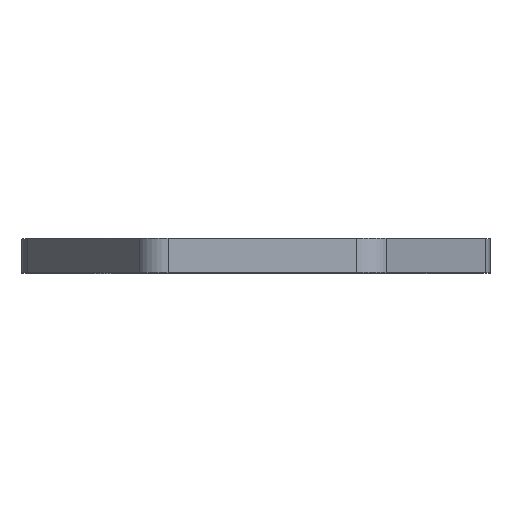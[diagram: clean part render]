
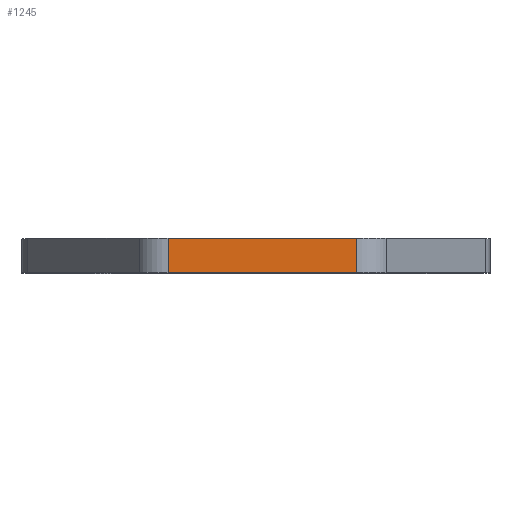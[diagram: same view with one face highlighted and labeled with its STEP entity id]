
A CAD part, top view. The second image highlights one B-rep face of the part: STEP entity #1245.
In plain terms, the highlighted planar face has unit normal (0, 0, 1).
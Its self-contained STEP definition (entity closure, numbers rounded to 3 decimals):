
#38 = ORIENTED_EDGE ( 'NONE', *, *, #1426, .T. ) ;
#97 = VECTOR ( 'NONE', #1094, 1000. ) ;
#167 = ORIENTED_EDGE ( 'NONE', *, *, #1560, .F. ) ;
#202 = DIRECTION ( 'NONE',  ( 0., -1., 0. ) ) ;
#304 = LINE ( 'NONE', #467, #739 ) ;
#385 = EDGE_CURVE ( 'NONE', #1393, #505, #473, .T. ) ;
#467 = CARTESIAN_POINT ( 'NONE',  ( -15.574, -1.5, 62.876 ) ) ;
#473 = LINE ( 'NONE', #727, #97 ) ;
#503 = VECTOR ( 'NONE', #904, 1000. ) ;
#505 = VERTEX_POINT ( 'NONE', #1030 ) ;
#521 = DIRECTION ( 'NONE',  ( 0., 0., -1. ) ) ;
#555 = DIRECTION ( 'NONE',  ( 1., 0., 0. ) ) ;
#615 = PLANE ( 'NONE',  #682 ) ;
#641 = FACE_OUTER_BOUND ( 'NONE', #745, .T. ) ;
#682 = AXIS2_PLACEMENT_3D ( 'NONE', #884, #521, #1363 ) ;
#702 = ORIENTED_EDGE ( 'NONE', *, *, #1466, .F. ) ;
#727 = CARTESIAN_POINT ( 'NONE',  ( -15.574, 4.5, 62.876 ) ) ;
#739 = VECTOR ( 'NONE', #555, 1000. ) ;
#745 = EDGE_LOOP ( 'NONE', ( #38, #167, #702, #1364 ) ) ;
#884 = CARTESIAN_POINT ( 'NONE',  ( -15.574, 4.5, 62.876 ) ) ;
#904 = DIRECTION ( 'NONE',  ( 1., 0., 0. ) ) ;
#1030 = CARTESIAN_POINT ( 'NONE',  ( -15.574, -1.5, 62.876 ) ) ;
#1066 = CARTESIAN_POINT ( 'NONE',  ( -15.574, 4.5, 62.876 ) ) ;
#1094 = DIRECTION ( 'NONE',  ( 0., -1., 0. ) ) ;
#1188 = CARTESIAN_POINT ( 'NONE',  ( 17.636, 4.5, 62.876 ) ) ;
#1205 = VERTEX_POINT ( 'NONE', #1188 ) ;
#1245 = ADVANCED_FACE ( 'NONE', ( #641 ), #615, .F. ) ;
#1259 = LINE ( 'NONE', #1528, #503 ) ;
#1291 = LINE ( 'NONE', #1446, #1449 ) ;
#1363 = DIRECTION ( 'NONE',  ( -1., 0., 0. ) ) ;
#1364 = ORIENTED_EDGE ( 'NONE', *, *, #385, .T. ) ;
#1393 = VERTEX_POINT ( 'NONE', #1066 ) ;
#1426 = EDGE_CURVE ( 'NONE', #505, #1482, #304, .T. ) ;
#1446 = CARTESIAN_POINT ( 'NONE',  ( 17.636, 4.5, 62.876 ) ) ;
#1449 = VECTOR ( 'NONE', #202, 1000. ) ;
#1466 = EDGE_CURVE ( 'NONE', #1393, #1205, #1259, .T. ) ;
#1482 = VERTEX_POINT ( 'NONE', #1516 ) ;
#1516 = CARTESIAN_POINT ( 'NONE',  ( 17.636, -1.5, 62.876 ) ) ;
#1528 = CARTESIAN_POINT ( 'NONE',  ( -15.574, 4.5, 62.876 ) ) ;
#1560 = EDGE_CURVE ( 'NONE', #1205, #1482, #1291, .T. ) ;
